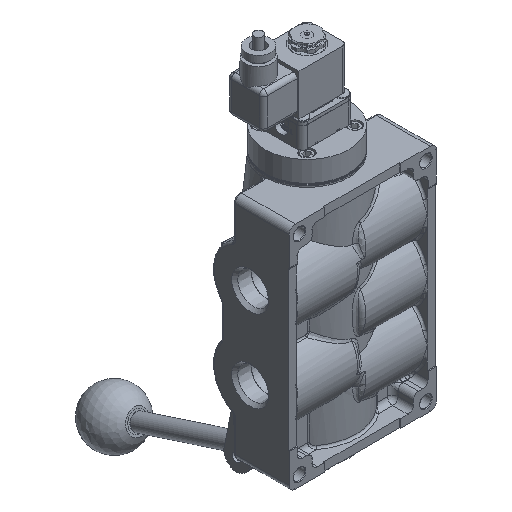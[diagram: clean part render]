
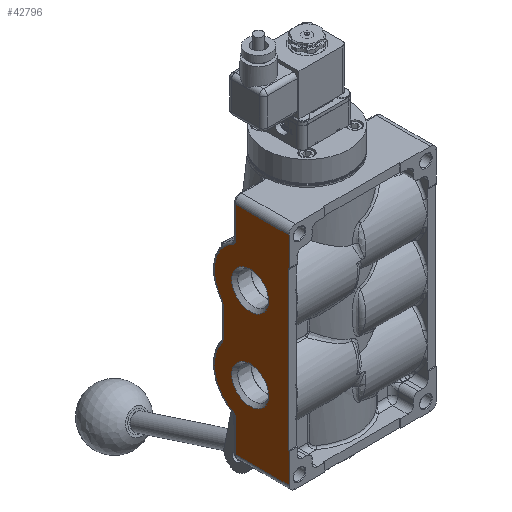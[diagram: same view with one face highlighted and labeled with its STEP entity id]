
A CAD part, isometric view. The second image highlights one B-rep face of the part: STEP entity #42796.
In plain terms, the highlighted planar face has unit normal (-1, 0, 0).
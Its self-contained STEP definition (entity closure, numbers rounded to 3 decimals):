
#3813=LINE('',#85444,#6362);
#3814=LINE('',#85460,#6363);
#3815=LINE('',#85476,#6364);
#3817=LINE('',#85486,#6366);
#3818=LINE('',#85490,#6367);
#3819=LINE('',#85492,#6368);
#3820=LINE('',#85494,#6369);
#3821=LINE('',#85496,#6370);
#3822=LINE('',#85497,#6371);
#3823=LINE('',#85498,#6372);
#6362=VECTOR('',#53748,1.);
#6363=VECTOR('',#53771,1.);
#6364=VECTOR('',#53794,1.);
#6366=VECTOR('',#53808,1.);
#6367=VECTOR('',#53811,1.);
#6368=VECTOR('',#53812,1.);
#6369=VECTOR('',#53813,1.);
#6370=VECTOR('',#53814,1.);
#6371=VECTOR('',#53815,1.);
#6372=VECTOR('',#53816,1.);
#8254=FACE_BOUND('',#12151,.T.);
#8255=FACE_BOUND('',#12152,.T.);
#9435=FACE_OUTER_BOUND('',#12150,.T.);
#12150=EDGE_LOOP('',(#31228,#31229,#31230,#31231,#31232,#31233,#31234,#31235,
#31236,#31237,#31238,#31239,#31240,#31241,#31242,#31243));
#12151=EDGE_LOOP('',(#31244));
#12152=EDGE_LOOP('',(#31245));
#14688=CIRCLE('',#46202,0.318);
#14690=CIRCLE('',#46205,2.699);
#14692=CIRCLE('',#46208,0.476);
#14695=CIRCLE('',#46213,0.476);
#14697=CIRCLE('',#46216,2.699);
#14699=CIRCLE('',#46219,0.318);
#14704=CIRCLE('',#46229,1.389);
#14705=CIRCLE('',#46230,1.389);
#17834=VERTEX_POINT('',#85438);
#17835=VERTEX_POINT('',#85442);
#17836=VERTEX_POINT('',#85446);
#17837=VERTEX_POINT('',#85450);
#17838=VERTEX_POINT('',#85454);
#17839=VERTEX_POINT('',#85458);
#17840=VERTEX_POINT('',#85462);
#17841=VERTEX_POINT('',#85466);
#17842=VERTEX_POINT('',#85470);
#17843=VERTEX_POINT('',#85474);
#17845=VERTEX_POINT('',#85484);
#17846=VERTEX_POINT('',#85488);
#17847=VERTEX_POINT('',#85489);
#17848=VERTEX_POINT('',#85491);
#17849=VERTEX_POINT('',#85493);
#17850=VERTEX_POINT('',#85495);
#17851=VERTEX_POINT('',#85499);
#17852=VERTEX_POINT('',#85501);
#22579=EDGE_CURVE('',#17835,#17834,#3813,.T.);
#22581=EDGE_CURVE('',#17836,#17835,#14688,.T.);
#22583=EDGE_CURVE('',#17837,#17836,#14690,.T.);
#22585=EDGE_CURVE('',#17838,#17837,#14692,.T.);
#22587=EDGE_CURVE('',#17839,#17838,#3814,.T.);
#22589=EDGE_CURVE('',#17840,#17839,#14695,.T.);
#22591=EDGE_CURVE('',#17841,#17840,#14697,.T.);
#22593=EDGE_CURVE('',#17842,#17841,#14699,.T.);
#22595=EDGE_CURVE('',#17843,#17842,#3815,.T.);
#22600=EDGE_CURVE('',#17834,#17845,#3817,.T.);
#22601=EDGE_CURVE('',#17846,#17847,#3818,.T.);
#22602=EDGE_CURVE('',#17847,#17848,#3819,.T.);
#22603=EDGE_CURVE('',#17848,#17849,#3820,.T.);
#22604=EDGE_CURVE('',#17849,#17850,#3821,.T.);
#22605=EDGE_CURVE('',#17850,#17845,#3822,.T.);
#22606=EDGE_CURVE('',#17846,#17843,#3823,.T.);
#22607=EDGE_CURVE('',#17851,#17851,#14704,.T.);
#22608=EDGE_CURVE('',#17852,#17852,#14705,.T.);
#31228=ORIENTED_EDGE('',*,*,#22601,.T.);
#31229=ORIENTED_EDGE('',*,*,#22602,.T.);
#31230=ORIENTED_EDGE('',*,*,#22603,.T.);
#31231=ORIENTED_EDGE('',*,*,#22604,.T.);
#31232=ORIENTED_EDGE('',*,*,#22605,.T.);
#31233=ORIENTED_EDGE('',*,*,#22600,.F.);
#31234=ORIENTED_EDGE('',*,*,#22579,.F.);
#31235=ORIENTED_EDGE('',*,*,#22581,.F.);
#31236=ORIENTED_EDGE('',*,*,#22583,.F.);
#31237=ORIENTED_EDGE('',*,*,#22585,.F.);
#31238=ORIENTED_EDGE('',*,*,#22587,.F.);
#31239=ORIENTED_EDGE('',*,*,#22589,.F.);
#31240=ORIENTED_EDGE('',*,*,#22591,.F.);
#31241=ORIENTED_EDGE('',*,*,#22593,.F.);
#31242=ORIENTED_EDGE('',*,*,#22595,.F.);
#31243=ORIENTED_EDGE('',*,*,#22606,.F.);
#31244=ORIENTED_EDGE('',*,*,#22607,.T.);
#31245=ORIENTED_EDGE('',*,*,#22608,.T.);
#38858=PLANE('',#46228);
#42796=ADVANCED_FACE('',(#9435,#8254,#8255),#38858,.F.);
#46202=AXIS2_PLACEMENT_3D('',#85448,#53753,#53754);
#46205=AXIS2_PLACEMENT_3D('',#85452,#53759,#53760);
#46208=AXIS2_PLACEMENT_3D('',#85456,#53765,#53766);
#46213=AXIS2_PLACEMENT_3D('',#85464,#53776,#53777);
#46216=AXIS2_PLACEMENT_3D('',#85468,#53782,#53783);
#46219=AXIS2_PLACEMENT_3D('',#85472,#53788,#53789);
#46228=AXIS2_PLACEMENT_3D('',#85487,#53809,#53810);
#46229=AXIS2_PLACEMENT_3D('',#85500,#53817,#53818);
#46230=AXIS2_PLACEMENT_3D('',#85502,#53819,#53820);
#53748=DIRECTION('',(0.,0.,1.));
#53753=DIRECTION('center_axis',(-1.,0.,0.));
#53754=DIRECTION('ref_axis',(0.,-0.858,-0.513));
#53759=DIRECTION('center_axis',(1.,0.,0.));
#53760=DIRECTION('ref_axis',(0.,0.978,0.209));
#53765=DIRECTION('center_axis',(-1.,0.,0.));
#53766=DIRECTION('ref_axis',(0.,-0.947,0.322));
#53771=DIRECTION('',(0.,0.,1.));
#53776=DIRECTION('center_axis',(-1.,0.,0.));
#53777=DIRECTION('ref_axis',(0.,-0.947,-0.322));
#53782=DIRECTION('center_axis',(1.,0.,0.));
#53783=DIRECTION('ref_axis',(0.,0.978,-0.209));
#53788=DIRECTION('center_axis',(-1.,0.,0.));
#53789=DIRECTION('ref_axis',(0.,-0.858,0.513));
#53794=DIRECTION('',(0.,0.,1.));
#53808=DIRECTION('',(0.,-1.,0.));
#53809=DIRECTION('center_axis',(1.,0.,0.));
#53810=DIRECTION('ref_axis',(0.,0.,-1.));
#53811=DIRECTION('',(0.,0.,1.));
#53812=DIRECTION('',(0.,1.,0.));
#53813=DIRECTION('',(0.,0.,1.));
#53814=DIRECTION('',(0.,-1.,0.));
#53815=DIRECTION('',(0.,0.,1.));
#53816=DIRECTION('',(0.,1.,0.));
#53817=DIRECTION('center_axis',(1.,0.,0.));
#53818=DIRECTION('ref_axis',(0.,0.,1.));
#53819=DIRECTION('center_axis',(1.,0.,0.));
#53820=DIRECTION('ref_axis',(0.,0.,1.));
#85438=CARTESIAN_POINT('',(-5.556,-0.159,8.176));
#85442=CARTESIAN_POINT('',(-5.556,-0.159,5.752));
#85444=CARTESIAN_POINT('',(-5.556,-0.159,4.326));
#85446=CARTESIAN_POINT('',(-5.556,0.008,5.472));
#85448=CARTESIAN_POINT('Origin',(-5.556,0.159,5.752));
#85450=CARTESIAN_POINT('',(-5.556,0.868,1.449));
#85452=CARTESIAN_POINT('Origin',(-5.556,-1.27,3.096));
#85454=CARTESIAN_POINT('',(-5.556,0.77,1.159));
#85456=CARTESIAN_POINT('Origin',(-5.556,1.246,1.159));
#85458=CARTESIAN_POINT('',(-5.556,0.77,-1.159));
#85460=CARTESIAN_POINT('',(-5.556,0.77,0.635));
#85462=CARTESIAN_POINT('',(-5.556,0.868,-1.449));
#85464=CARTESIAN_POINT('Origin',(-5.556,1.246,-1.159));
#85466=CARTESIAN_POINT('',(-5.556,0.008,-5.472));
#85468=CARTESIAN_POINT('Origin',(-5.556,-1.27,-3.096));
#85470=CARTESIAN_POINT('',(-5.556,-0.159,-5.752));
#85472=CARTESIAN_POINT('Origin',(-5.556,0.159,-5.752));
#85474=CARTESIAN_POINT('',(-5.556,-0.159,-8.176));
#85476=CARTESIAN_POINT('',(-5.556,-0.159,4.326));
#85484=CARTESIAN_POINT('',(-5.556,-4.207,8.176));
#85486=CARTESIAN_POINT('',(-5.556,-3.215,8.176));
#85487=CARTESIAN_POINT('Origin',(-5.556,-2.143,0.));
#85488=CARTESIAN_POINT('',(-5.556,-4.207,-8.176));
#85489=CARTESIAN_POINT('',(-5.556,-4.207,-5.953));
#85490=CARTESIAN_POINT('',(-5.556,-4.207,0.));
#85491=CARTESIAN_POINT('',(-5.556,-4.128,-5.953));
#85492=CARTESIAN_POINT('',(-5.556,-3.175,-5.953));
#85493=CARTESIAN_POINT('',(-5.556,-4.128,5.953));
#85494=CARTESIAN_POINT('',(-5.556,-4.128,0.));
#85495=CARTESIAN_POINT('',(-5.556,-4.207,5.953));
#85496=CARTESIAN_POINT('',(-5.556,-3.175,5.953));
#85497=CARTESIAN_POINT('',(-5.556,-4.207,0.));
#85498=CARTESIAN_POINT('',(-5.556,-1.072,-8.176));
#85499=CARTESIAN_POINT('',(-5.556,-1.27,1.707));
#85500=CARTESIAN_POINT('Origin',(-5.556,-1.27,3.096));
#85501=CARTESIAN_POINT('',(-5.556,-1.27,-4.485));
#85502=CARTESIAN_POINT('Origin',(-5.556,-1.27,-3.096));
